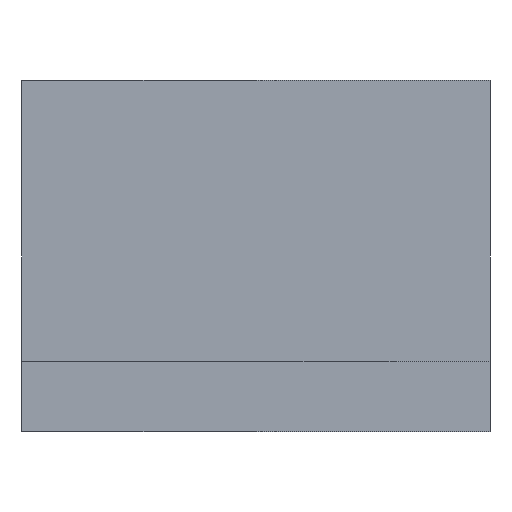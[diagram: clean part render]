
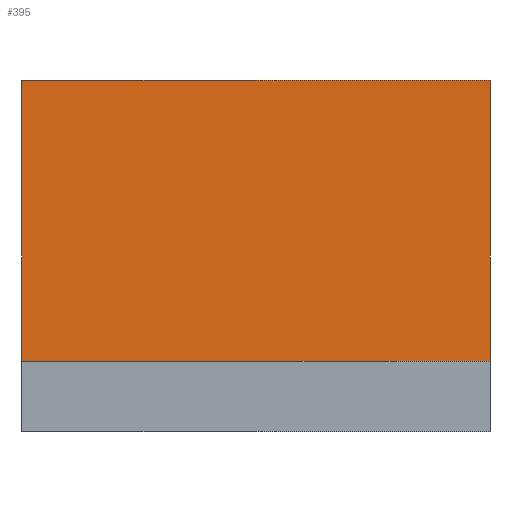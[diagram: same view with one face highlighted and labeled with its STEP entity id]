
A CAD part, front view. The second image highlights one B-rep face of the part: STEP entity #395.
In plain terms, the highlighted planar face has unit normal (0, -1, 0).
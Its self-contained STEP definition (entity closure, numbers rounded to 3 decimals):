
#22 = VERTEX_POINT('',#23);
#23 = CARTESIAN_POINT('',(-47.4,-5.3,38.1));
#32 = PLANE('',#33);
#33 = AXIS2_PLACEMENT_3D('',#34,#35,#36);
#34 = CARTESIAN_POINT('',(-47.4,-5.3,35.7));
#35 = DIRECTION('',(1.,0.,0.));
#36 = DIRECTION('',(0.,0.,1.));
#44 = PLANE('',#45);
#45 = AXIS2_PLACEMENT_3D('',#46,#47,#48);
#46 = CARTESIAN_POINT('',(-47.4,-5.3,38.1));
#47 = DIRECTION('',(0.,0.,1.));
#48 = DIRECTION('',(1.,0.,0.));
#56 = EDGE_CURVE('',#57,#22,#59,.T.);
#57 = VERTEX_POINT('',#58);
#58 = CARTESIAN_POINT('',(-47.4,-5.3,35.7));
#59 = SURFACE_CURVE('',#60,(#64,#71),.PCURVE_S1.);
#60 = LINE('',#61,#62);
#61 = CARTESIAN_POINT('',(-47.4,-5.3,35.7));
#62 = VECTOR('',#63,1.);
#63 = DIRECTION('',(0.,0.,1.));
#64 = PCURVE('',#32,#65);
#65 = DEFINITIONAL_REPRESENTATION('',(#66),#70);
#66 = LINE('',#67,#68);
#67 = CARTESIAN_POINT('',(0.,0.));
#68 = VECTOR('',#69,1.);
#69 = DIRECTION('',(1.,0.));
#70 = ( GEOMETRIC_REPRESENTATION_CONTEXT(2) 
PARAMETRIC_REPRESENTATION_CONTEXT() REPRESENTATION_CONTEXT('2D SPACE',''
  ) );
#71 = PCURVE('',#72,#77);
#72 = PLANE('',#73);
#73 = AXIS2_PLACEMENT_3D('',#74,#75,#76);
#74 = CARTESIAN_POINT('',(-47.4,-5.3,35.7));
#75 = DIRECTION('',(0.,1.,0.));
#76 = DIRECTION('',(0.,0.,1.));
#77 = DEFINITIONAL_REPRESENTATION('',(#78),#82);
#78 = LINE('',#79,#80);
#79 = CARTESIAN_POINT('',(0.,0.));
#80 = VECTOR('',#81,1.);
#81 = DIRECTION('',(1.,0.));
#82 = ( GEOMETRIC_REPRESENTATION_CONTEXT(2) 
PARAMETRIC_REPRESENTATION_CONTEXT() REPRESENTATION_CONTEXT('2D SPACE',''
  ) );
#100 = PLANE('',#101);
#101 = AXIS2_PLACEMENT_3D('',#102,#103,#104);
#102 = CARTESIAN_POINT('',(-47.4,-5.3,35.7));
#103 = DIRECTION('',(0.,0.,1.));
#104 = DIRECTION('',(1.,0.,0.));
#254 = EDGE_CURVE('',#22,#255,#257,.T.);
#255 = VERTEX_POINT('',#256);
#256 = CARTESIAN_POINT('',(-43.4,-5.3,38.1));
#257 = SURFACE_CURVE('',#258,(#262,#269),.PCURVE_S1.);
#258 = LINE('',#259,#260);
#259 = CARTESIAN_POINT('',(-47.4,-5.3,38.1));
#260 = VECTOR('',#261,1.);
#261 = DIRECTION('',(1.,0.,0.));
#262 = PCURVE('',#44,#263);
#263 = DEFINITIONAL_REPRESENTATION('',(#264),#268);
#264 = LINE('',#265,#266);
#265 = CARTESIAN_POINT('',(0.,0.));
#266 = VECTOR('',#267,1.);
#267 = DIRECTION('',(1.,0.));
#268 = ( GEOMETRIC_REPRESENTATION_CONTEXT(2) 
PARAMETRIC_REPRESENTATION_CONTEXT() REPRESENTATION_CONTEXT('2D SPACE',''
  ) );
#269 = PCURVE('',#72,#270);
#270 = DEFINITIONAL_REPRESENTATION('',(#271),#275);
#271 = LINE('',#272,#273);
#272 = CARTESIAN_POINT('',(2.4,0.));
#273 = VECTOR('',#274,1.);
#274 = DIRECTION('',(0.,1.));
#275 = ( GEOMETRIC_REPRESENTATION_CONTEXT(2) 
PARAMETRIC_REPRESENTATION_CONTEXT() REPRESENTATION_CONTEXT('2D SPACE',''
  ) );
#293 = PLANE('',#294);
#294 = AXIS2_PLACEMENT_3D('',#295,#296,#297);
#295 = CARTESIAN_POINT('',(-43.4,-5.3,35.7));
#296 = DIRECTION('',(1.,0.,0.));
#297 = DIRECTION('',(0.,0.,1.));
#395 = ADVANCED_FACE('',(#396),#72,.F.);
#396 = FACE_BOUND('',#397,.F.);
#397 = EDGE_LOOP('',(#398,#421,#422,#423));
#398 = ORIENTED_EDGE('',*,*,#399,.F.);
#399 = EDGE_CURVE('',#57,#400,#402,.T.);
#400 = VERTEX_POINT('',#401);
#401 = CARTESIAN_POINT('',(-43.4,-5.3,35.7));
#402 = SURFACE_CURVE('',#403,(#407,#414),.PCURVE_S1.);
#403 = LINE('',#404,#405);
#404 = CARTESIAN_POINT('',(-47.4,-5.3,35.7));
#405 = VECTOR('',#406,1.);
#406 = DIRECTION('',(1.,0.,0.));
#407 = PCURVE('',#72,#408);
#408 = DEFINITIONAL_REPRESENTATION('',(#409),#413);
#409 = LINE('',#410,#411);
#410 = CARTESIAN_POINT('',(0.,0.));
#411 = VECTOR('',#412,1.);
#412 = DIRECTION('',(0.,1.));
#413 = ( GEOMETRIC_REPRESENTATION_CONTEXT(2) 
PARAMETRIC_REPRESENTATION_CONTEXT() REPRESENTATION_CONTEXT('2D SPACE',''
  ) );
#414 = PCURVE('',#100,#415);
#415 = DEFINITIONAL_REPRESENTATION('',(#416),#420);
#416 = LINE('',#417,#418);
#417 = CARTESIAN_POINT('',(0.,0.));
#418 = VECTOR('',#419,1.);
#419 = DIRECTION('',(1.,0.));
#420 = ( GEOMETRIC_REPRESENTATION_CONTEXT(2) 
PARAMETRIC_REPRESENTATION_CONTEXT() REPRESENTATION_CONTEXT('2D SPACE',''
  ) );
#421 = ORIENTED_EDGE('',*,*,#56,.T.);
#422 = ORIENTED_EDGE('',*,*,#254,.T.);
#423 = ORIENTED_EDGE('',*,*,#424,.F.);
#424 = EDGE_CURVE('',#400,#255,#425,.T.);
#425 = SURFACE_CURVE('',#426,(#430,#437),.PCURVE_S1.);
#426 = LINE('',#427,#428);
#427 = CARTESIAN_POINT('',(-43.4,-5.3,35.7));
#428 = VECTOR('',#429,1.);
#429 = DIRECTION('',(0.,0.,1.));
#430 = PCURVE('',#72,#431);
#431 = DEFINITIONAL_REPRESENTATION('',(#432),#436);
#432 = LINE('',#433,#434);
#433 = CARTESIAN_POINT('',(0.,4.));
#434 = VECTOR('',#435,1.);
#435 = DIRECTION('',(1.,0.));
#436 = ( GEOMETRIC_REPRESENTATION_CONTEXT(2) 
PARAMETRIC_REPRESENTATION_CONTEXT() REPRESENTATION_CONTEXT('2D SPACE',''
  ) );
#437 = PCURVE('',#293,#438);
#438 = DEFINITIONAL_REPRESENTATION('',(#439),#443);
#439 = LINE('',#440,#441);
#440 = CARTESIAN_POINT('',(0.,0.));
#441 = VECTOR('',#442,1.);
#442 = DIRECTION('',(1.,0.));
#443 = ( GEOMETRIC_REPRESENTATION_CONTEXT(2) 
PARAMETRIC_REPRESENTATION_CONTEXT() REPRESENTATION_CONTEXT('2D SPACE',''
  ) );
